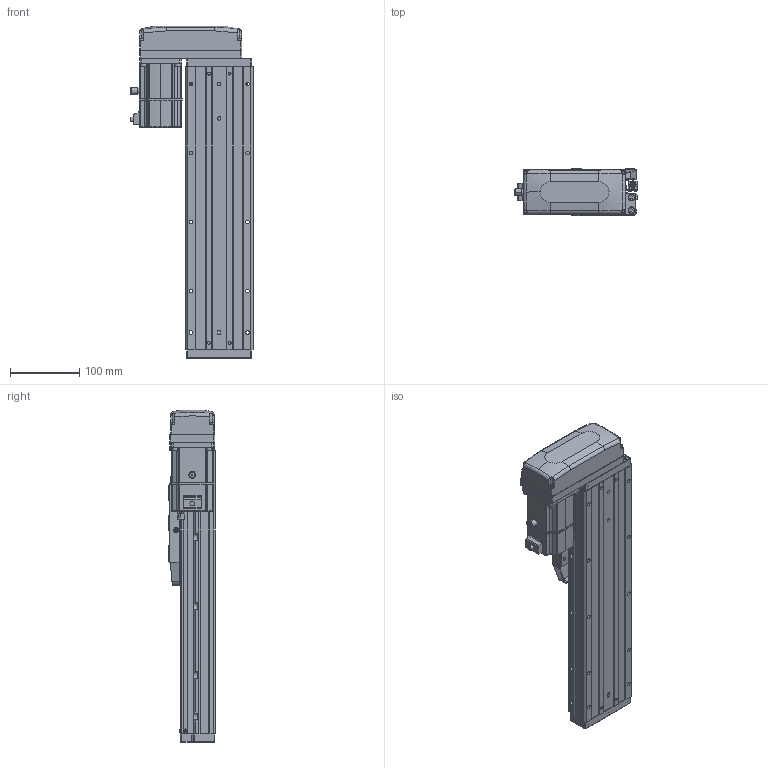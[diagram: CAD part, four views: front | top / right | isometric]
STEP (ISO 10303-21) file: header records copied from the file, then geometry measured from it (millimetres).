
FILE_DESCRIPTION (( 'STEP AP203' ), '1' );
FILE_NAME ('CTHA100-200-BL-M20-C4L.step', '2022-07-06T09:07:55', ( '微软用户' ), ( '微软中国' ), 'SwSTEP 2.0', 'SolidWorks 2020', '' );
FILE_SCHEMA (( 'CONFIG_CONTROL_DESIGN' ));
Length unit declared in the file: millimetre
Products named in the file (19): CTHA60-017; CTHA100-002; CTHA60-021; CTHA100-031; KTHA100-001_410; GBT77-2000 M3×3; CTHA86-030; KTHA100-004; GBT 70.1-M3℅6; GBT 70.3-M3℅6; KTHA100-005; GBT70.1 M5℅16; CTHA86-015-1_CTHA86-015-2; GB¨uT 70.2-M3¡Á5_M3¡Á6; CTHA60-016; CTHA86-033; EE_SX911P_R; _X2_4E0983F1_X0_200W_1; CTHA100-200-BL-M20-C4L
Assembly tree (64 placements, depth 2):
  CTHA100-200-BL-M20-C4L
    KTHA100-001_410
    KTHA100-004
    KTHA100-005
    GB¨uT 70.2-M3¡Á5_M3¡Á6  x10
    EE_SX911P_R  x3
    CTHA60-017  x3
    CTHA60-021  x2
    GBT77-2000 M3×3  x6
    GBT 70.1-M3℅6  x10
    GBT70.1 M5℅16  x14
    CTHA60-016  x2
    _X2_4E0983F1_X0_200W_1
    CTHA100-002
    CTHA100-031
    CTHA86-030  x2
    GBT 70.3-M3℅6  x4
    CTHA86-015-1_CTHA86-015-2
    CTHA86-033
Bounding box: 178.52 x 68 x 481 mm (x, y, z)
Volume: 2414631.3 mm3; surface area: 432889 mm2
Topology: 66 solids, 66 shells, 2609 faces, 6247 edges, 3868 vertices
Faces by surface type: plane 1356, cylinder 683, cone 347, torus 124, bspline 75, sphere 24
Entity records: 44054 total; most frequent: CARTESIAN_POINT 8699, DIRECTION 6764, ORIENTED_EDGE 6610, EDGE_CURVE 3305, AXIS2_PLACEMENT_3D 2305, LINE 2154, VECTOR 2154, VERTEX_POINT 2088
